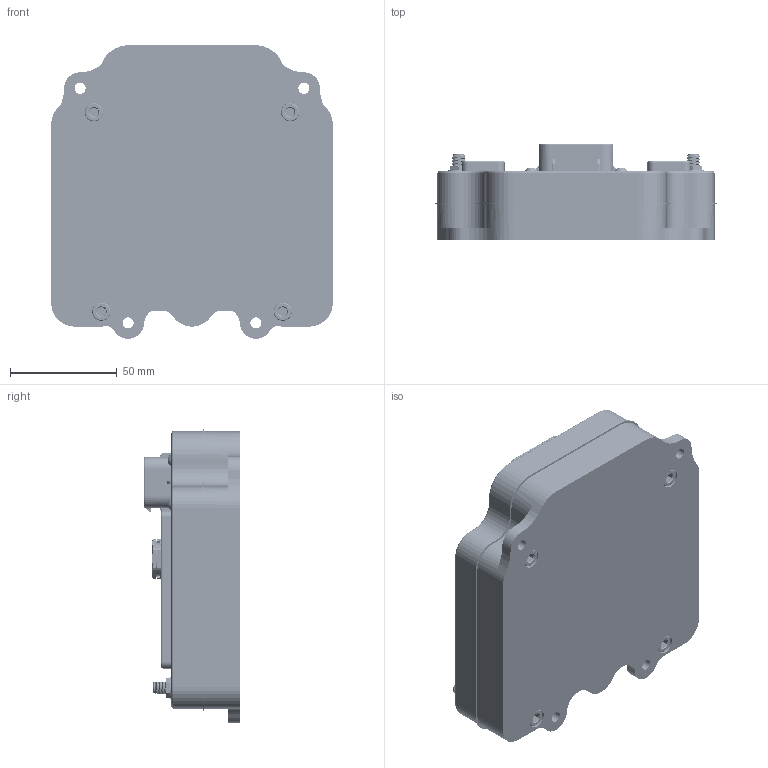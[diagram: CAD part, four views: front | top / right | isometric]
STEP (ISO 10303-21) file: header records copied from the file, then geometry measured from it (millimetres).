
FILE_DESCRIPTION (( 'STEP AP214' ), '1' );
FILE_NAME ('Moduline_S1_SOLID.STEP', '2026-06-24T12:08:20', ( '' ), ( '' ), 'SwSTEP 2.0', 'SolidWorks 2021', '' );
FILE_SCHEMA (( 'AUTOMOTIVE_DESIGN' ));
Length unit declared in the file: millimetre
Products named in the file (1): Moduline_S1_SOLID
Bounding box: 132 x 45.1 x 137.75 mm (x, y, z)
Volume: 493896 mm3; surface area: 117497 mm2
Topology: 37 solids, 37 shells, 2737 faces, 8350 edges, 5974 vertices
Faces by surface type: plane 1089, cylinder 925, cone 390, torus 300, bspline 33
Full cylindrical faces by diameter (mm): 0.4 x3, 0.6 x3, 1.05 x3, 1.13 x3, 1.27 x6, 1.3 x3, 2.13 x3, 2.25 x3, 2.3 x3, 3 x82, 3.6 x4, 4 x5, 4.1 x6, 4.2 x4, 4.65 x3, 4.9 x1, 5 x9, 5.2 x8, 5.34 x3, 6.24 x3, 6.5 x3, 7 x1, 8.5 x4, 9 x4, 9.8 x3, 10.16 x2, 10.2 x3, 10.5 x1, 12 x1, 16 x1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
Entity records: 144568 total; most frequent: CARTESIAN_POINT 43712, ORIENTED_EDGE 15670, DIRECTION 13778, EDGE_CURVE 7835, VERTEX_POINT 5741, AXIS2_PLACEMENT_3D 5134, LINE 3510, VECTOR 3510
